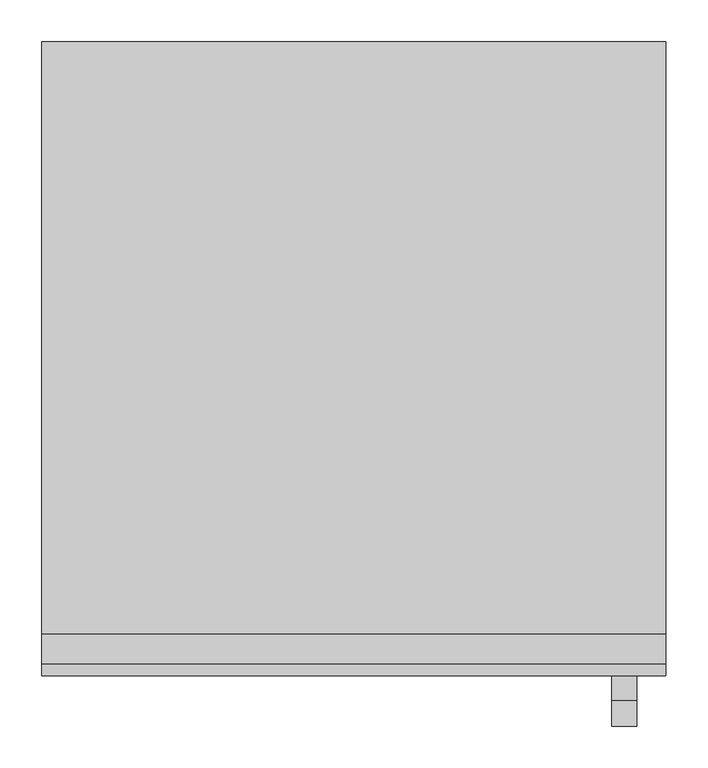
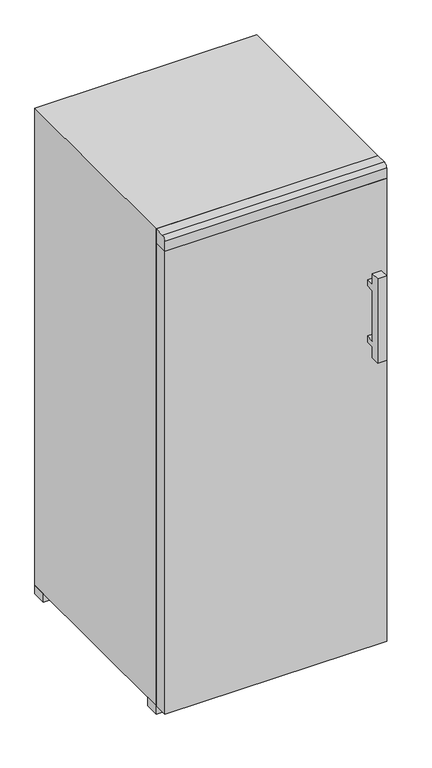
"""IFC4 building model written with IfcOpenShell, lengths in millimetres: proxy geometry, SIKB 3550 : SIKB 3550."""

from ifc_helpers import new_model, si_unit, point, frame, frame_2d, origin, place, context, project, spatial, polyline, circle_curve, trimmed, segment, composite_curve, outline, extrude, source, transform, mapped, element, save


def specialty_equipment_83738169(model_context):
    return source(origin(), model_context, "Body", "SweptSolid", [
        extrude(outline(composite_curve([segment(polyline([(-738.8345306, 1176.8132517), (-788.8345306, 1176.8132517), (-788.8345306, 1213.26203)]), True, "CONTINUOUS"), segment(trimmed(circle_curve(frame_2d((-774.5349468, 1212.4930039)), 14.3202478), [point((-788.8345306, 1213.26203))], [point((-774.5349468, 1226.8132517))], False, "CARTESIAN"), True, "CONTINUOUS"), segment(polyline([(-774.5349468, 1226.8132517), (-738.8345306, 1226.8132517), (-738.8345306, 1176.8132517)]), True, "CONTINUOUS")], self_intersect=False)), frame((-1000.0, 0.0, 0.0), z_axis=(1.0, 0.0, 0.0), x_axis=(0.0, 1.0, 0.0)), (0.0, 0.0, 1.0), 747.0),
        extrude(outline(polyline([(-253.0, -688.8345306), (-253.0, -738.8345306), (-303.0, -738.8345306), (-303.0, -688.8345306), (-253.0, -688.8345306)])), frame((0.0, 0.0, -503.1867483), z_axis=(0.0, 0.0, 1.0), x_axis=(1.0, 0.0, 0.0)), (0.0, 0.0, 1.0), 30.0),
        extrude(outline(polyline([(-253.0, -29.8345306), (-253.0, -79.8345306), (-303.0, -79.8345306), (-303.0, -29.8345306), (-253.0, -29.8345306)])), frame((0.0, 0.0, -503.1867483), z_axis=(0.0, 0.0, 1.0), x_axis=(1.0, 0.0, 0.0)), (0.0, 0.0, 1.0), 30.0),
        extrude(outline(polyline([(-950.0, -29.8345306), (-950.0, -79.8345306), (-1000.0, -79.8345306), (-1000.0, -29.8345306), (-950.0, -29.8345306)])), frame((0.0, 0.0, -503.1867483), z_axis=(0.0, 0.0, 1.0), x_axis=(1.0, 0.0, 0.0)), (0.0, 0.0, 1.0), 30.0),
        extrude(outline(polyline([(-950.0, -688.8345306), (-950.0, -738.8345306), (-1000.0, -738.8345306), (-1000.0, -688.8345306), (-950.0, -688.8345306)])), frame((0.0, 0.0, -503.1867483), z_axis=(0.0, 0.0, 1.0), x_axis=(1.0, 0.0, 0.0)), (0.0, 0.0, 1.0), 30.0),
        extrude(outline(polyline([(-818.8345306, 836.8132517), (-788.8345306, 836.8132517), (-788.8345306, 816.8132517), (-818.8345306, 816.8132517), (-818.8345306, 636.8132517), (-788.8345306, 636.8132517), (-788.8345306, 616.8132517), (-818.8345306, 616.8132517), (-818.8345306, 576.8132517), (-848.8345306, 576.8132517), (-848.8345306, 876.8132517), (-818.8345306, 876.8132517), (-818.8345306, 836.8132517)])), frame((-317.5788386, 0.0, 0.0), z_axis=(1.0, 0.0, 0.0), x_axis=(0.0, 1.0, 0.0)), (0.0, 0.0, 1.0), 30.0),
        extrude(outline(polyline([(-253.0, -788.8345306), (-1000.0, -788.8345306), (-1000.0, -738.8345306), (-253.0, -738.8345306), (-253.0, -788.8345306)])), frame((0.0, 0.0, -473.1867483), z_axis=(0.0, 0.0, 1.0), x_axis=(1.0, 0.0, 0.0)), (0.0, 0.0, 1.0), 1650.0),
        extrude(outline(polyline([(-253.0, -738.8345306), (-1000.0, -738.8345306), (-1000.0, -29.8345306), (-253.0, -29.8345306), (-253.0, -738.8345306)])), frame((0.0, 0.0, -473.1867483), z_axis=(0.0, 0.0, 1.0), x_axis=(1.0, 0.0, 0.0)), (0.0, 0.0, 1.0), 1700.0),
    ])


if __name__ == "__main__":
    model = new_model("IFC4")
    model_context = context("Model", 3, world=origin())
    ifc_project = project(units=[si_unit("LENGTHUNIT", "METRE", prefix="MILLI")], contexts=[model_context])
    site = spatial("IfcSite", under=ifc_project)
    building = spatial("IfcBuilding", under=site)
    placement = place(None, origin())
    specialty_equipment_shape = specialty_equipment_83738169(model_context)
    element("IfcBuildingElementProxy", 1, Name="SIKB 3550 : SIKB 3550", ObjectType="SIKB 3550 : SIKB 3550", at=placement, inside=building, context=model_context, shape_type="MappedRepresentation", body=[
        mapped(specialty_equipment_shape, transform((0.0, 0.0, 0.0), x_axis=(1.0, 0.0, 0.0), y_axis=(0.0, 1.0, 0.0), z_axis=(0.0, 0.0, 1.0))),
    ])
    save(model, "model.ifc")
